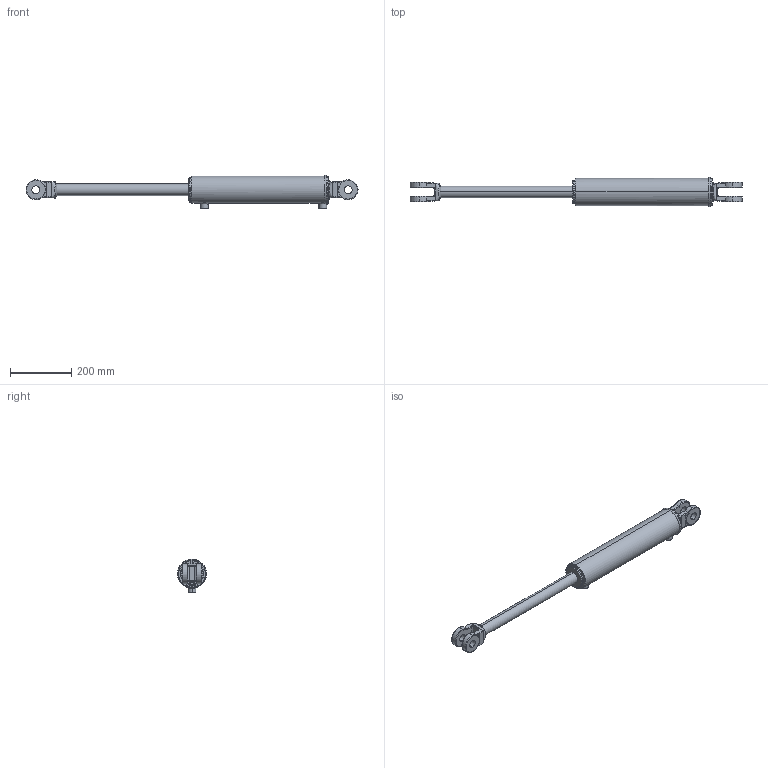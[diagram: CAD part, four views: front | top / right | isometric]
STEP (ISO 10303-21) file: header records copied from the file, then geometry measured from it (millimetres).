
FILE_DESCRIPTION (( 'STEP AP203' ), '1' );
FILE_NAME ('CL-CL300150x355 (14) extended.STEP', '2014-11-21T23:22:02', ( '' ), ( '' ), 'SwSTEP 2.0', 'SolidWorks 2014', '' );
FILE_SCHEMA (( 'CONFIG_CONTROL_DESIGN' ));
Length unit declared in the file: millimetre
Products named in the file (4): SPARE 6_14x1.5; CL-CL300150x355 (14) extended; CL-CL300150x  body_3x14; 3 in ext circlip
Assembly tree (3 placements, depth 2):
  CL-CL300150x355 (14) extended
    CL-CL300150x  body_3x14
    3 in ext circlip
    SPARE 6_14x1.5
Bounding box: 1084.39 x 94.87 x 109.9 mm (x, y, z)
Volume: 3330487 mm3; surface area: 304872.6 mm2
Topology: 3 solids, 3 shells, 212 faces, 515 edges, 316 vertices
Faces by surface type: cylinder 92, bspline 61, plane 37, torus 14, cone 8
Entity records: 11771 total; most frequent: CARTESIAN_POINT 6695, ORIENTED_EDGE 1022, DIRECTION 943, EDGE_CURVE 511, AXIS2_PLACEMENT_3D 393, VERTEX_POINT 316, CIRCLE 236, EDGE_LOOP 235
